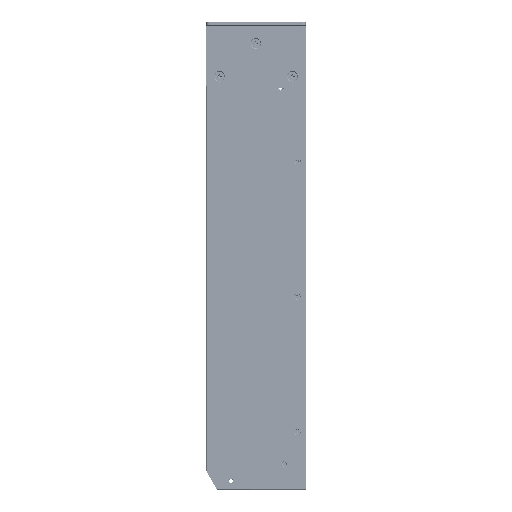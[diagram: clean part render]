
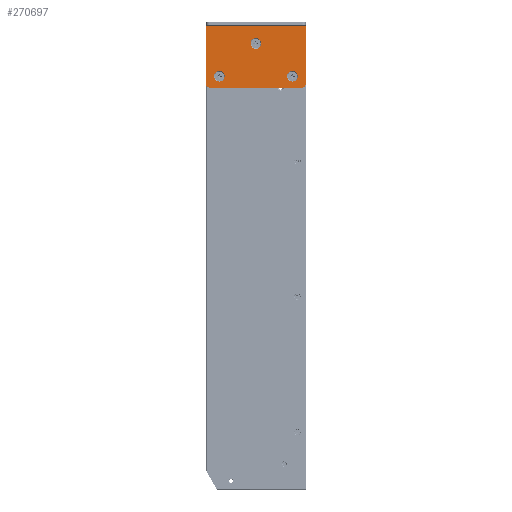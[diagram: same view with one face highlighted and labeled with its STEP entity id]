
A CAD part, left-side view. The second image highlights one B-rep face of the part: STEP entity #270697.
In plain terms, the highlighted planar face has unit normal (-1, 0, 0).
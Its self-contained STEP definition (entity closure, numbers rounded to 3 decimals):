
#8404 = CIRCLE ( 'NONE', #237354, 4.7 ) ;
#10195 = DIRECTION ( 'NONE',  ( 0., 0., 1. ) ) ;
#21276 = VERTEX_POINT ( 'NONE', #128708 ) ;
#21804 = DIRECTION ( 'NONE',  ( -1., 0., 0. ) ) ;
#24352 = DIRECTION ( 'NONE',  ( 0., 1., 0. ) ) ;
#25945 = CARTESIAN_POINT ( 'NONE',  ( -223., -10.725, 147.8 ) ) ;
#27305 = LINE ( 'NONE', #254305, #304855 ) ;
#42986 = DIRECTION ( 'NONE',  ( 0., 0., 1. ) ) ;
#46589 = EDGE_CURVE ( 'NONE', #213544, #581130, #27305, .T. ) ;
#49319 = ORIENTED_EDGE ( 'NONE', *, *, #100622, .F. ) ;
#52052 = DIRECTION ( 'NONE',  ( -1., 0., 0. ) ) ;
#54948 = VECTOR ( 'NONE', #42986, 1000. ) ;
#56357 = EDGE_LOOP ( 'NONE', ( #212265, #476370, #346171, #358419, #49319, #61317 ) ) ;
#57917 = FACE_BOUND ( 'NONE', #177248, .T. ) ;
#58822 = AXIS2_PLACEMENT_3D ( 'NONE', #534947, #305020, #307954 ) ;
#61317 = ORIENTED_EDGE ( 'NONE', *, *, #108767, .T. ) ;
#67172 = ORIENTED_EDGE ( 'NONE', *, *, #546506, .F. ) ;
#69581 = DIRECTION ( 'NONE',  ( 0., 0., 1. ) ) ;
#73200 = DIRECTION ( 'NONE',  ( 0., 0., 1. ) ) ;
#73398 = VERTEX_POINT ( 'NONE', #507734 ) ;
#79457 = VERTEX_POINT ( 'NONE', #263020 ) ;
#86274 = DIRECTION ( 'NONE',  ( 0., 0., 1. ) ) ;
#94037 = CARTESIAN_POINT ( 'NONE',  ( -223., 1., 197. ) ) ;
#97935 = EDGE_CURVE ( 'NONE', #561987, #254423, #203338, .T. ) ;
#100622 = EDGE_CURVE ( 'NONE', #115257, #561987, #180305, .T. ) ;
#103978 = DIRECTION ( 'NONE',  ( -1., 0., 0. ) ) ;
#108767 = EDGE_CURVE ( 'NONE', #115257, #581130, #344875, .T. ) ;
#109502 = ORIENTED_EDGE ( 'NONE', *, *, #120559, .F. ) ;
#110097 = VERTEX_POINT ( 'NONE', #466772 ) ;
#114745 = CIRCLE ( 'NONE', #210222, 4.7 ) ;
#115257 = VERTEX_POINT ( 'NONE', #266878 ) ;
#120559 = EDGE_CURVE ( 'NONE', #500543, #220048, #140816, .T. ) ;
#125631 = EDGE_LOOP ( 'NONE', ( #129705, #67172 ) ) ;
#125657 = ORIENTED_EDGE ( 'NONE', *, *, #590772, .F. ) ;
#128053 = EDGE_CURVE ( 'NONE', #79457, #73398, #234813, .T. ) ;
#128708 = CARTESIAN_POINT ( 'NONE',  ( -223., -87.05, 145.5 ) ) ;
#129705 = ORIENTED_EDGE ( 'NONE', *, *, #128053, .F. ) ;
#139798 = EDGE_LOOP ( 'NONE', ( #282869, #334549 ) ) ;
#140816 = CIRCLE ( 'NONE', #579374, 4.7 ) ;
#152168 = CIRCLE ( 'NONE', #199907, 3. ) ;
#153380 = DIRECTION ( 'NONE',  ( 0., 0., -1. ) ) ;
#154622 = CARTESIAN_POINT ( 'NONE',  ( -223., -84.05, 145.5 ) ) ;
#165005 = CARTESIAN_POINT ( 'NONE',  ( -223., -43.025, 181.5 ) ) ;
#171412 = EDGE_CURVE ( 'NONE', #254423, #21276, #297426, .T. ) ;
#177248 = EDGE_LOOP ( 'NONE', ( #109502, #125657 ) ) ;
#178140 = VECTOR ( 'NONE', #245275, 1000. ) ;
#180305 = LINE ( 'NONE', #413178, #54948 ) ;
#189392 = FACE_BOUND ( 'NONE', #139798, .T. ) ;
#195241 = FACE_OUTER_BOUND ( 'NONE', #56357, .T. ) ;
#196779 = AXIS2_PLACEMENT_3D ( 'NONE', #337835, #520018, #334912 ) ;
#199907 = AXIS2_PLACEMENT_3D ( 'NONE', #154622, #103978, #241358 ) ;
#203338 = LINE ( 'NONE', #334842, #178140 ) ;
#210222 = AXIS2_PLACEMENT_3D ( 'NONE', #300172, #482320, #73200 ) ;
#212265 = ORIENTED_EDGE ( 'NONE', *, *, #46589, .F. ) ;
#213544 = VERTEX_POINT ( 'NONE', #532984 ) ;
#219064 = DIRECTION ( 'NONE',  ( 0., 0., 1. ) ) ;
#220048 = VERTEX_POINT ( 'NONE', #25945 ) ;
#228379 = VERTEX_POINT ( 'NONE', #250223 ) ;
#234285 = CARTESIAN_POINT ( 'NONE',  ( -223., -10.725, 152.5 ) ) ;
#234766 = DIRECTION ( 'NONE',  ( -1., 0., 0. ) ) ;
#234813 = CIRCLE ( 'NONE', #196779, 4.7 ) ;
#237354 = AXIS2_PLACEMENT_3D ( 'NONE', #165005, #21804, #69581 ) ;
#241358 = DIRECTION ( 'NONE',  ( 0., 0., -1. ) ) ;
#241802 = CARTESIAN_POINT ( 'NONE',  ( -223., -10.725, 157.2 ) ) ;
#245275 = DIRECTION ( 'NONE',  ( 0., -1., 0. ) ) ;
#250223 = CARTESIAN_POINT ( 'NONE',  ( -223., -43.025, 186.2 ) ) ;
#254305 = CARTESIAN_POINT ( 'NONE',  ( -223., -87.05, 142.5 ) ) ;
#254423 = VERTEX_POINT ( 'NONE', #553100 ) ;
#263020 = CARTESIAN_POINT ( 'NONE',  ( -223., -75.325, 157.2 ) ) ;
#266878 = CARTESIAN_POINT ( 'NONE',  ( -223., 1., 145.5 ) ) ;
#268528 = AXIS2_PLACEMENT_3D ( 'NONE', #495395, #234766, #86274 ) ;
#269735 = DIRECTION ( 'NONE',  ( -1., 0., 0. ) ) ;
#270697 = ADVANCED_FACE ( 'NONE', ( #189392, #517712, #57917, #195241 ), #323794, .F. ) ;
#275682 = AXIS2_PLACEMENT_3D ( 'NONE', #464136, #472909, #153380 ) ;
#282869 = ORIENTED_EDGE ( 'NONE', *, *, #482280, .F. ) ;
#287323 = CIRCLE ( 'NONE', #268528, 4.7 ) ;
#297426 = LINE ( 'NONE', #569128, #362833 ) ;
#300172 = CARTESIAN_POINT ( 'NONE',  ( -223., -75.325, 152.5 ) ) ;
#304855 = VECTOR ( 'NONE', #24352, 1000. ) ;
#305020 = DIRECTION ( 'NONE',  ( -1., 0., 0. ) ) ;
#307954 = DIRECTION ( 'NONE',  ( 0., 0., -1. ) ) ;
#309640 = CARTESIAN_POINT ( 'NONE',  ( -223., -2., 142.5 ) ) ;
#323794 = PLANE ( 'NONE',  #275682 ) ;
#334549 = ORIENTED_EDGE ( 'NONE', *, *, #463964, .F. ) ;
#334842 = CARTESIAN_POINT ( 'NONE',  ( -223., 1., 197. ) ) ;
#334912 = DIRECTION ( 'NONE',  ( 0., 0., 1. ) ) ;
#337835 = CARTESIAN_POINT ( 'NONE',  ( -223., -75.325, 152.5 ) ) ;
#344875 = CIRCLE ( 'NONE', #58822, 3. ) ;
#346171 = ORIENTED_EDGE ( 'NONE', *, *, #171412, .F. ) ;
#358419 = ORIENTED_EDGE ( 'NONE', *, *, #97935, .F. ) ;
#362833 = VECTOR ( 'NONE', #560335, 1000. ) ;
#370041 = CIRCLE ( 'NONE', #398534, 4.7 ) ;
#398534 = AXIS2_PLACEMENT_3D ( 'NONE', #535631, #269735, #219064 ) ;
#413178 = CARTESIAN_POINT ( 'NONE',  ( -223., 1., 142.5 ) ) ;
#463964 = EDGE_CURVE ( 'NONE', #110097, #228379, #8404, .T. ) ;
#464136 = CARTESIAN_POINT ( 'NONE',  ( -223., -87.05, 142.5 ) ) ;
#466772 = CARTESIAN_POINT ( 'NONE',  ( -223., -43.025, 176.8 ) ) ;
#472909 = DIRECTION ( 'NONE',  ( 1., 0., 0. ) ) ;
#476370 = ORIENTED_EDGE ( 'NONE', *, *, #480570, .T. ) ;
#480570 = EDGE_CURVE ( 'NONE', #213544, #21276, #152168, .T. ) ;
#482280 = EDGE_CURVE ( 'NONE', #228379, #110097, #287323, .T. ) ;
#482320 = DIRECTION ( 'NONE',  ( -1., 0., 0. ) ) ;
#495395 = CARTESIAN_POINT ( 'NONE',  ( -223., -43.025, 181.5 ) ) ;
#500543 = VERTEX_POINT ( 'NONE', #241802 ) ;
#507734 = CARTESIAN_POINT ( 'NONE',  ( -223., -75.325, 147.8 ) ) ;
#517712 = FACE_BOUND ( 'NONE', #125631, .T. ) ;
#520018 = DIRECTION ( 'NONE',  ( -1., 0., 0. ) ) ;
#532984 = CARTESIAN_POINT ( 'NONE',  ( -223., -84.05, 142.5 ) ) ;
#534947 = CARTESIAN_POINT ( 'NONE',  ( -223., -2., 145.5 ) ) ;
#535631 = CARTESIAN_POINT ( 'NONE',  ( -223., -10.725, 152.5 ) ) ;
#546506 = EDGE_CURVE ( 'NONE', #73398, #79457, #114745, .T. ) ;
#553100 = CARTESIAN_POINT ( 'NONE',  ( -223., -87.05, 197. ) ) ;
#560335 = DIRECTION ( 'NONE',  ( 0., 0., -1. ) ) ;
#561987 = VERTEX_POINT ( 'NONE', #94037 ) ;
#569128 = CARTESIAN_POINT ( 'NONE',  ( -223., -87.05, 142.5 ) ) ;
#579374 = AXIS2_PLACEMENT_3D ( 'NONE', #234285, #52052, #10195 ) ;
#581130 = VERTEX_POINT ( 'NONE', #309640 ) ;
#590772 = EDGE_CURVE ( 'NONE', #220048, #500543, #370041, .T. ) ;
